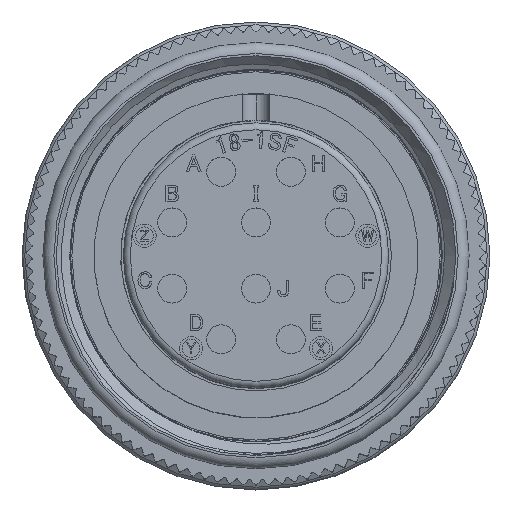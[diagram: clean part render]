
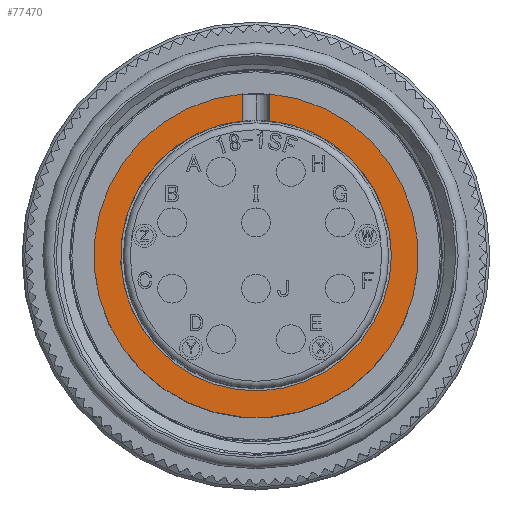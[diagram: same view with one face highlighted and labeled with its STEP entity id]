
A CAD part, top view. The second image highlights one B-rep face of the part: STEP entity #77470.
In plain terms, the highlighted planar face has unit normal (0, 0, 1).
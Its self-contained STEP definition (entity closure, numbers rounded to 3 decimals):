
#1896 = DIRECTION ( 'NONE',  ( 0., 1., 0. ) ) ;
#3358 = CARTESIAN_POINT ( 'NONE',  ( 0., 0., 0. ) ) ;
#3941 = EDGE_CURVE ( 'NONE', #61022, #59345, #46862, .T. ) ;
#4364 = CIRCLE ( 'NONE', #57029, 11.81 ) ;
#7914 = ORIENTED_EDGE ( 'NONE', *, *, #36466, .T. ) ;
#15201 = DIRECTION ( 'NONE',  ( 0., 0., -1. ) ) ;
#18085 = VERTEX_POINT ( 'NONE', #66935 ) ;
#22072 = CARTESIAN_POINT ( 'NONE',  ( 1., 12.223, 0. ) ) ;
#22705 = EDGE_LOOP ( 'NONE', ( #7914, #82347, #41286, #23018 ) ) ;
#22803 = CIRCLE ( 'NONE', #27460, 9.86 ) ;
#23018 = ORIENTED_EDGE ( 'NONE', *, *, #3941, .F. ) ;
#27460 = AXIS2_PLACEMENT_3D ( 'NONE', #33412, #80883, #66656 ) ;
#28116 = CARTESIAN_POINT ( 'NONE',  ( 0., 9.86, 0. ) ) ;
#32265 = CARTESIAN_POINT ( 'NONE',  ( 1., 11.768, 0. ) ) ;
#33412 = CARTESIAN_POINT ( 'NONE',  ( 0., 0., 0. ) ) ;
#33657 = VERTEX_POINT ( 'NONE', #32265 ) ;
#36466 = EDGE_CURVE ( 'NONE', #61022, #33657, #4364, .T. ) ;
#36708 = FACE_OUTER_BOUND ( 'NONE', #22705, .T. ) ;
#37468 = VECTOR ( 'NONE', #65563, 1000. ) ;
#39489 = LINE ( 'NONE', #22072, #45807 ) ;
#41286 = ORIENTED_EDGE ( 'NONE', *, *, #79579, .F. ) ;
#43414 = DIRECTION ( 'NONE',  ( 1., 0., 0. ) ) ;
#43531 = CARTESIAN_POINT ( 'NONE',  ( -1., 11.768, 0. ) ) ;
#45807 = VECTOR ( 'NONE', #1896, 1000. ) ;
#46862 = LINE ( 'NONE', #85272, #37468 ) ;
#54243 = CARTESIAN_POINT ( 'NONE',  ( -1., 9.809, 0. ) ) ;
#57029 = AXIS2_PLACEMENT_3D ( 'NONE', #3358, #82717, #43414 ) ;
#59345 = VERTEX_POINT ( 'NONE', #54243 ) ;
#61022 = VERTEX_POINT ( 'NONE', #43531 ) ;
#65563 = DIRECTION ( 'NONE',  ( 0., -1., 0. ) ) ;
#66656 = DIRECTION ( 'NONE',  ( 1., 0., 0. ) ) ;
#66935 = CARTESIAN_POINT ( 'NONE',  ( 1., 9.809, 0. ) ) ;
#68748 = AXIS2_PLACEMENT_3D ( 'NONE', #28116, #15201, #74794 ) ;
#73135 = EDGE_CURVE ( 'NONE', #18085, #33657, #39489, .T. ) ;
#74794 = DIRECTION ( 'NONE',  ( -1., 0., 0. ) ) ;
#77470 = ADVANCED_FACE ( 'NONE', ( #36708 ), #80621, .F. ) ;
#79579 = EDGE_CURVE ( 'NONE', #59345, #18085, #22803, .T. ) ;
#80621 = PLANE ( 'NONE',  #68748 ) ;
#80883 = DIRECTION ( 'NONE',  ( 0., 0., 1. ) ) ;
#82347 = ORIENTED_EDGE ( 'NONE', *, *, #73135, .F. ) ;
#82717 = DIRECTION ( 'NONE',  ( 0., 0., 1. ) ) ;
#85272 = CARTESIAN_POINT ( 'NONE',  ( -1., 12.223, 0. ) ) ;
